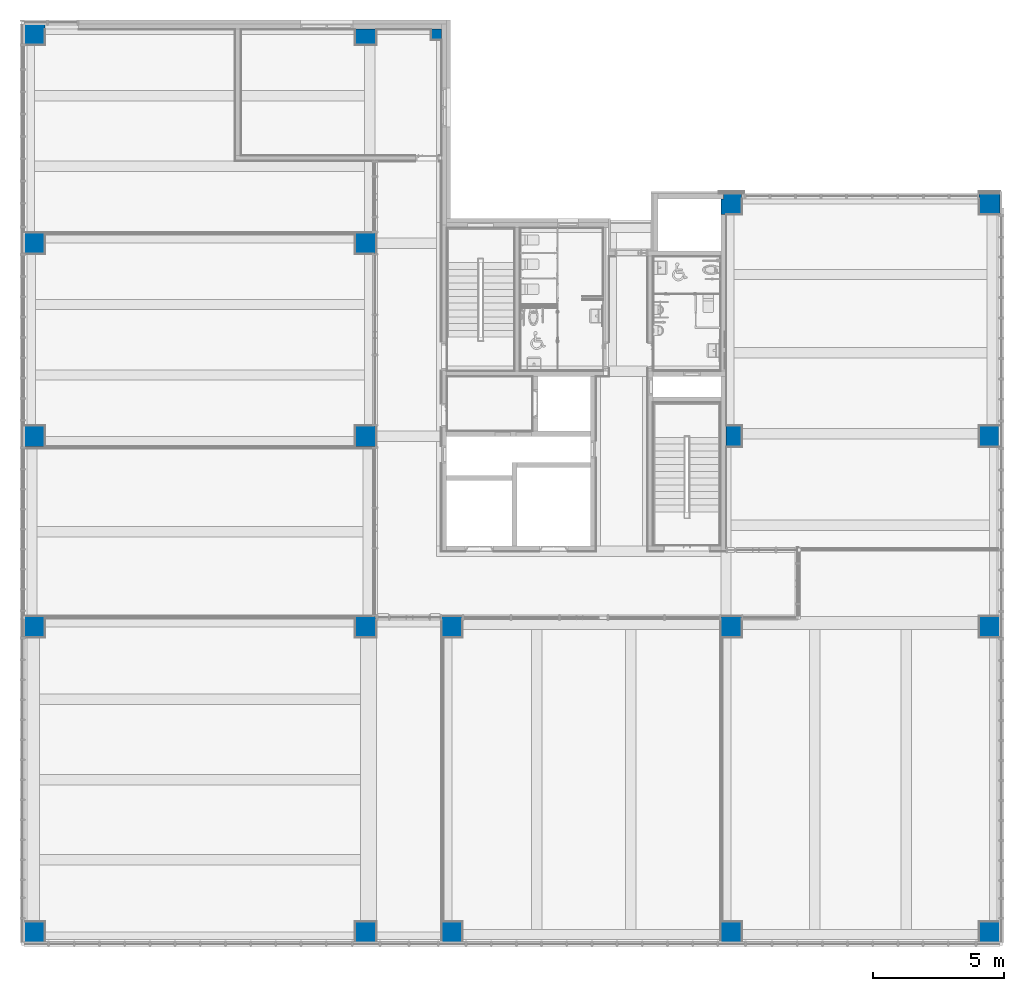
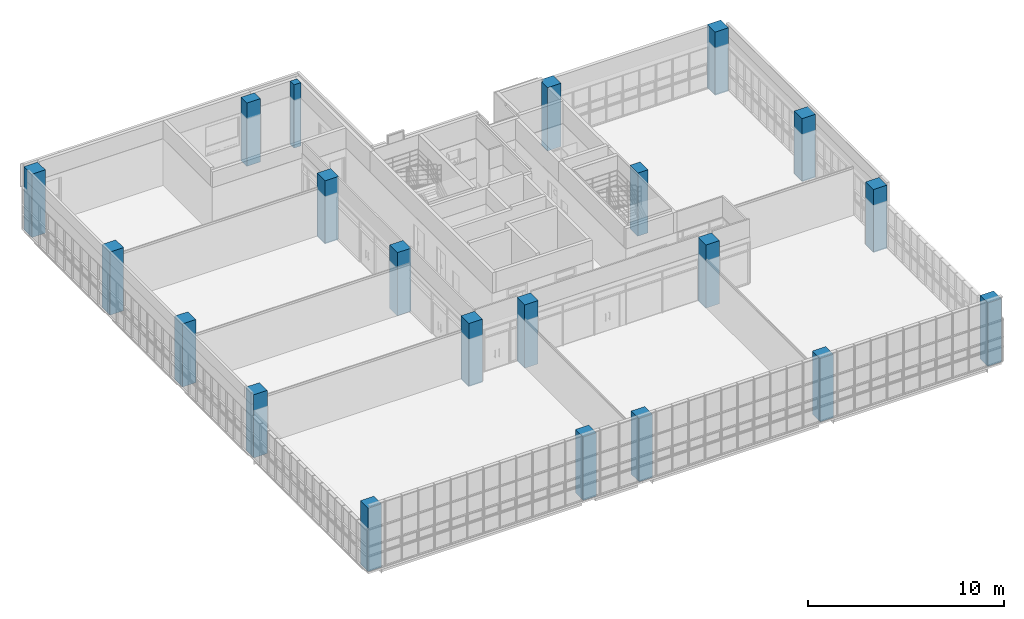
# One storey, part 1 of 76: 21 columns.
"""IFC2X3 building model written with IfcOpenShell, lengths in millimetres."""

from ifc_helpers import new_model, entity, si_unit, converted_unit, derived_unit, direction, frame, frame_2d, origin, origin_2d_with_axis, place, context, subcontext, project, spatial, polyline, rectangle, outline, extrude, source, transform, mapped, material, type_object, type_shapes, element, save


model = new_model("IFC2X3")

# Units and contexts
model_context = context("Model", 3, precision=0.01, world=origin(), true_north=direction((6.123031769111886e-17, 1.0)))
body_context = subcontext(model_context, "Body", "Model", "MODEL_VIEW")
ifc_project = project(units=[si_unit("LENGTHUNIT", "METRE", prefix="MILLI"), si_unit("AREAUNIT", "SQUARE_METRE"), si_unit("VOLUMEUNIT", "CUBIC_METRE"), converted_unit("PLANEANGLEUNIT", "DEGREE", entity("IfcRatioMeasure", 0.017453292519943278), si_unit("PLANEANGLEUNIT", "RADIAN"), dimensions=[0, 0, 0, 0, 0, 0, 0]), si_unit("MASSUNIT", "GRAM", prefix="KILO"), derived_unit("MASSDENSITYUNIT", [(si_unit("MASSUNIT", "GRAM", prefix="KILO"), 1), (si_unit("LENGTHUNIT", "METRE"), -3)]), derived_unit("MOMENTOFINERTIAUNIT", [(si_unit("LENGTHUNIT", "METRE"), 4)]), si_unit("TIMEUNIT", "SECOND"), si_unit("FREQUENCYUNIT", "HERTZ"), si_unit("THERMODYNAMICTEMPERATUREUNIT", "DEGREE_CELSIUS"), derived_unit("THERMALTRANSMITTANCEUNIT", [(si_unit("MASSUNIT", "GRAM", prefix="KILO"), 1), (si_unit("THERMODYNAMICTEMPERATUREUNIT", "KELVIN"), -1), (si_unit("TIMEUNIT", "SECOND"), -3)]), derived_unit("VOLUMETRICFLOWRATEUNIT", [(si_unit("LENGTHUNIT", "METRE"), 3), (si_unit("TIMEUNIT", "SECOND"), -1)]), derived_unit("MASSFLOWRATEUNIT", [(si_unit("MASSUNIT", "GRAM", prefix="KILO"), 1), (si_unit("TIMEUNIT", "SECOND"), -1)]), derived_unit("ROTATIONALFREQUENCYUNIT", [(si_unit("TIMEUNIT", "SECOND"), -1)]), si_unit("ELECTRICCURRENTUNIT", "AMPERE"), si_unit("ELECTRICVOLTAGEUNIT", "VOLT"), si_unit("POWERUNIT", "WATT"), si_unit("FORCEUNIT", "NEWTON", prefix="KILO"), si_unit("ILLUMINANCEUNIT", "LUX"), si_unit("LUMINOUSFLUXUNIT", "LUMEN"), si_unit("LUMINOUSINTENSITYUNIT", "CANDELA"), derived_unit("USERDEFINED", [(si_unit("MASSUNIT", "GRAM", prefix="KILO"), -1), (si_unit("LENGTHUNIT", "METRE"), -2), (si_unit("TIMEUNIT", "SECOND"), 3), (si_unit("LUMINOUSFLUXUNIT", "LUMEN"), 1)]), derived_unit("SOUNDPOWERUNIT", [(si_unit("MASSUNIT", "GRAM", prefix="KILO"), 1), (si_unit("LENGTHUNIT", "METRE"), 2), (si_unit("TIMEUNIT", "SECOND"), -3)]), derived_unit("SOUNDPRESSUREUNIT", [(si_unit("MASSUNIT", "GRAM", prefix="KILO"), 1), (si_unit("LENGTHUNIT", "METRE"), -1), (si_unit("TIMEUNIT", "SECOND"), -2)]), derived_unit("LINEARVELOCITYUNIT", [(si_unit("LENGTHUNIT", "METRE"), 1), (si_unit("TIMEUNIT", "SECOND"), -1)]), si_unit("PRESSUREUNIT", "PASCAL"), derived_unit("USERDEFINED", [(si_unit("LENGTHUNIT", "METRE"), -2), (si_unit("MASSUNIT", "GRAM", prefix="KILO"), 1), (si_unit("TIMEUNIT", "SECOND"), -2)]), derived_unit("LINEARFORCEUNIT", [(si_unit("MASSUNIT", "GRAM", prefix="KILO"), 1), (si_unit("LENGTHUNIT", "METRE"), 1), (si_unit("TIMEUNIT", "SECOND"), -2), (si_unit("LENGTHUNIT", "METRE"), -1)]), derived_unit("PLANARFORCEUNIT", [(si_unit("MASSUNIT", "GRAM", prefix="KILO"), 1), (si_unit("LENGTHUNIT", "METRE"), 1), (si_unit("TIMEUNIT", "SECOND"), -2), (si_unit("LENGTHUNIT", "METRE"), -2)])], contexts=[model_context])

# Site, building, storey
site_placement = place(None, frame((-14167.972527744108, -657.2125860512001, 0.0)))
site = spatial("IfcSite", under=ifc_project, at=site_placement, Name="Default", CompositionType="ELEMENT")
building_placement = place(site_placement, origin())
building = spatial("IfcBuilding", under=site, at=building_placement, Name="Sample Building", CompositionType="ELEMENT")
storey_placement = place(building_placement, frame((0.0, 0.0, 9300.0)))
storey = spatial("IfcBuildingStorey", under=building, at=storey_placement, Name="지상 3층", CompositionType="ELEMENT", Elevation=9300.000000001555)

# Columns
ifc_material = material(Name="KBIMS-콘크리트")
column_type_1 = type_object("IfcColumnType", Name="CL111-철근콘크리트구조 기둥 (각형)1:CL111-철근콘크리트구조 기둥 (각형)_800x800_B2-7C3", PredefinedType="COLUMN", material=ifc_material)
shared_shape_1 = source(origin(), body_context, "Body", "SweptSolid", [
    extrude(rectangle(XDim=799.9999999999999, YDim=800.0, at=frame_2d((-5.684341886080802e-14, 0.0), x_axis=(1.0, 0.0))), frame((14467.955105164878, 957.2121951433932, 9300.0), z_axis=(0.0, 0.0, 1.0), x_axis=(0.0, -1.0, 0.0)), (0.0, 0.0, 1.0), 3950.0000000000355),
])
type_shapes(column_type_1, [shared_shape_1])
column_1_placement = place(storey_placement, frame((0.0, 0.0, -9300.0)))
element("IfcColumn", 1, at=column_1_placement, inside=storey, type_object=column_type_1, material=ifc_material, Name="CL111-철근콘크리트구조 기둥 (각형)1:CL111-철근콘크리트구조 기둥 (각형)_800x800_B2-7C3", ObjectType="CL111-철근콘크리트구조 기둥 (각형)1:CL111-철근콘크리트구조 기둥 (각형)_800x800_B2-7C3", context=body_context, shape_type="MappedRepresentation", body=[
    mapped(shared_shape_1, transform((0.0, 0.0, 0.0), scale=1.0)),
])
column_type_2 = type_object("IfcColumnType", Name="CL111-철근콘크리트구조 기둥 (각형)1:CL111-철근콘크리트구조 기둥 (각형)_800x800_2-7C2", PredefinedType="COLUMN", material=ifc_material)
shared_shape_2 = source(origin(), body_context, "Body", "SweptSolid", [
    extrude(rectangle(XDim=799.9999999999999, YDim=800.0, at=frame_2d((-5.684341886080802e-14, 0.0), x_axis=(1.0, 0.0))), frame((27167.955141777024, 957.2121951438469, 9300.0), z_axis=(0.0, 0.0, 1.0), x_axis=(0.0, -1.0, 0.0)), (0.0, 0.0, 1.0), 3950.0000000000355),
])
type_shapes(column_type_2, [shared_shape_2])
column_2_placement = place(storey_placement, frame((0.0, 0.0, -9300.0)))
element("IfcColumn", 2, at=column_2_placement, inside=storey, type_object=column_type_2, material=ifc_material, Name="CL111-철근콘크리트구조 기둥 (각형)1:CL111-철근콘크리트구조 기둥 (각형)_800x800_2-7C2", ObjectType="CL111-철근콘크리트구조 기둥 (각형)1:CL111-철근콘크리트구조 기둥 (각형)_800x800_2-7C2", context=body_context, shape_type="MappedRepresentation", body=[
    mapped(shared_shape_2, transform((0.0, 0.0, 0.0), scale=1.0)),
])
column_type_3 = type_object("IfcColumnType", Name="CL111-철근콘크리트구조 기둥 (각형)1:CL111-철근콘크리트구조 기둥 (각형)_800x800_2-7C2", PredefinedType="COLUMN", material=ifc_material)
shared_shape_3 = source(origin(), body_context, "Body", "SweptSolid", [
    extrude(rectangle(XDim=799.9999999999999, YDim=800.0, at=frame_2d((-5.684341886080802e-14, 0.0), x_axis=(1.0, 0.0))), frame((30467.95511434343, 957.2121951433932, 9300.0), z_axis=(0.0, 0.0, 1.0), x_axis=(0.0, -1.0, 0.0)), (0.0, 0.0, 1.0), 3950.0000000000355),
])
type_shapes(column_type_3, [shared_shape_3])
column_3_placement = place(storey_placement, frame((0.0, 0.0, -9300.0)))
element("IfcColumn", 3, at=column_3_placement, inside=storey, type_object=column_type_3, material=ifc_material, Name="CL111-철근콘크리트구조 기둥 (각형)1:CL111-철근콘크리트구조 기둥 (각형)_800x800_2-7C2", ObjectType="CL111-철근콘크리트구조 기둥 (각형)1:CL111-철근콘크리트구조 기둥 (각형)_800x800_2-7C2", context=body_context, shape_type="MappedRepresentation", body=[
    mapped(shared_shape_3, transform((0.0, 0.0, 0.0), scale=1.0)),
])
column_type_4 = type_object("IfcColumnType", Name="CL111-철근콘크리트구조 기둥 (각형)1:CL111-철근콘크리트구조 기둥 (각형)_800x800_2-7C2", PredefinedType="COLUMN", material=ifc_material)
shared_shape_4 = source(origin(), body_context, "Body", "SweptSolid", [
    extrude(rectangle(XDim=799.9999999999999, YDim=800.0, at=frame_2d((0.0, -4.348521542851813e-12), x_axis=(1.0, 0.0))), frame((41167.955141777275, 957.2121951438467, 9300.0), z_axis=(0.0, 0.0, 1.0), x_axis=(0.0, -1.0, 0.0)), (0.0, 0.0, 1.0), 3950.0000000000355),
])
type_shapes(column_type_4, [shared_shape_4])
column_4_placement = place(storey_placement, frame((0.0, 0.0, -9300.0)))
element("IfcColumn", 4, at=column_4_placement, inside=storey, type_object=column_type_4, material=ifc_material, Name="CL111-철근콘크리트구조 기둥 (각형)1:CL111-철근콘크리트구조 기둥 (각형)_800x800_2-7C2", ObjectType="CL111-철근콘크리트구조 기둥 (각형)1:CL111-철근콘크리트구조 기둥 (각형)_800x800_2-7C2", context=body_context, shape_type="MappedRepresentation", body=[
    mapped(shared_shape_4, transform((0.0, 0.0, 0.0), scale=1.0)),
])
column_type_5 = type_object("IfcColumnType", Name="CL111-철근콘크리트구조 기둥 (각형)1:CL111-철근콘크리트구조 기둥 (각형)_800x800_B2-7C3", PredefinedType="COLUMN", material=ifc_material)
shared_shape_5 = source(origin(), body_context, "Body", "SweptSolid", [
    extrude(rectangle(XDim=799.9999999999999, YDim=800.0, at=frame_2d((0.0, -4.348521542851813e-12), x_axis=(1.0, 0.0))), frame((51067.96383810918, 957.2126170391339, 9300.0), z_axis=(0.0, 0.0, 1.0), x_axis=(0.0, -1.0, 0.0)), (0.0, 0.0, 1.0), 3950.0000000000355),
])
type_shapes(column_type_5, [shared_shape_5])
column_5_placement = place(storey_placement, frame((0.0, 0.0, -9300.0)))
element("IfcColumn", 5, at=column_5_placement, inside=storey, type_object=column_type_5, material=ifc_material, Name="CL111-철근콘크리트구조 기둥 (각형)1:CL111-철근콘크리트구조 기둥 (각형)_800x800_B2-7C3", ObjectType="CL111-철근콘크리트구조 기둥 (각형)1:CL111-철근콘크리트구조 기둥 (각형)_800x800_B2-7C3", context=body_context, shape_type="MappedRepresentation", body=[
    mapped(shared_shape_5, transform((0.0, 0.0, 0.0), scale=1.0)),
])
column_type_6 = type_object("IfcColumnType", Name="CL111-철근콘크리트구조 기둥 (각형)1:CL111-철근콘크리트구조 기둥 (각형)_800x800_2-7C2", PredefinedType="COLUMN", material=ifc_material)
shared_shape_6 = source(origin(), body_context, "Body", "SweptSolid", [
    extrude(rectangle(XDim=800.0000000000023, YDim=800.0000000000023, at=origin_2d_with_axis()), frame((14467.955086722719, 12657.21261703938, 9300.0), z_axis=(0.0, 0.0, 1.0), x_axis=(0.0, -1.0, 0.0)), (0.0, 0.0, 1.0), 3950.0000000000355),
])
type_shapes(column_type_6, [shared_shape_6])
column_6_placement = place(storey_placement, frame((0.0, 0.0, -9300.0)))
element("IfcColumn", 6, at=column_6_placement, inside=storey, type_object=column_type_6, material=ifc_material, Name="CL111-철근콘크리트구조 기둥 (각형)1:CL111-철근콘크리트구조 기둥 (각형)_800x800_2-7C2", ObjectType="CL111-철근콘크리트구조 기둥 (각형)1:CL111-철근콘크리트구조 기둥 (각형)_800x800_2-7C2", context=body_context, shape_type="MappedRepresentation", body=[
    mapped(shared_shape_6, transform((0.0, 0.0, 0.0), scale=1.0)),
])
column_type_7 = type_object("IfcColumnType", Name="CL111-철근콘크리트구조 기둥 (각형)1:CL111-철근콘크리트구조 기둥 (각형)_800x800_2-7C2", PredefinedType="COLUMN", material=ifc_material)
shared_shape_7 = source(origin(), body_context, "Body", "SweptSolid", [
    extrude(rectangle(XDim=800.0, YDim=800.0, at=origin_2d_with_axis()), frame((27167.955141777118, 12657.21261703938, 9300.0), z_axis=(0.0, 0.0, 1.0), x_axis=(0.0, -1.0, 0.0)), (0.0, 0.0, 1.0), 3950.0000000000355),
])
type_shapes(column_type_7, [shared_shape_7])
column_7_placement = place(storey_placement, frame((0.0, 0.0, -9300.0)))
element("IfcColumn", 7, at=column_7_placement, inside=storey, type_object=column_type_7, material=ifc_material, Name="CL111-철근콘크리트구조 기둥 (각형)1:CL111-철근콘크리트구조 기둥 (각형)_800x800_2-7C2", ObjectType="CL111-철근콘크리트구조 기둥 (각형)1:CL111-철근콘크리트구조 기둥 (각형)_800x800_2-7C2", context=body_context, shape_type="MappedRepresentation", body=[
    mapped(shared_shape_7, transform((0.0, 0.0, 0.0), scale=1.0)),
])
column_type_8 = type_object("IfcColumnType", Name="CL111-철근콘크리트구조 기둥 (각형)1:CL111-철근콘크리트구조 기둥 (각형)_800x800_2-7C2", PredefinedType="COLUMN", material=ifc_material)
shared_shape_8 = source(origin(), body_context, "Body", "SweptSolid", [
    extrude(rectangle(XDim=800.0, YDim=800.0, at=origin_2d_with_axis()), frame((30467.95511434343, 12657.21261703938, 9300.0), z_axis=(0.0, 0.0, 1.0), x_axis=(0.0, -1.0, 0.0)), (0.0, 0.0, 1.0), 3950.0000000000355),
])
type_shapes(column_type_8, [shared_shape_8])
column_8_placement = place(storey_placement, frame((0.0, 0.0, -9300.0)))
element("IfcColumn", 8, at=column_8_placement, inside=storey, type_object=column_type_8, material=ifc_material, Name="CL111-철근콘크리트구조 기둥 (각형)1:CL111-철근콘크리트구조 기둥 (각형)_800x800_2-7C2", ObjectType="CL111-철근콘크리트구조 기둥 (각형)1:CL111-철근콘크리트구조 기둥 (각형)_800x800_2-7C2", context=body_context, shape_type="MappedRepresentation", body=[
    mapped(shared_shape_8, transform((0.0, 0.0, 0.0), scale=1.0)),
])
column_type_9 = type_object("IfcColumnType", Name="CL111-철근콘크리트구조 기둥 (각형)1:CL111-철근콘크리트구조 기둥 (각형)_800x800_2-7C2", PredefinedType="COLUMN", material=ifc_material)
shared_shape_9 = source(origin(), body_context, "Body", "SweptSolid", [
    extrude(rectangle(XDim=800.0, YDim=800.0, at=frame_2d((0.0, -4.348521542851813e-12), x_axis=(1.0, 0.0))), frame((41167.955141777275, 12657.21261703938, 9300.0), z_axis=(0.0, 0.0, 1.0), x_axis=(0.0, -1.0, 0.0)), (0.0, 0.0, 1.0), 3950.0000000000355),
])
type_shapes(column_type_9, [shared_shape_9])
column_9_placement = place(storey_placement, frame((0.0, 0.0, -9300.0)))
element("IfcColumn", 9, at=column_9_placement, inside=storey, type_object=column_type_9, material=ifc_material, Name="CL111-철근콘크리트구조 기둥 (각형)1:CL111-철근콘크리트구조 기둥 (각형)_800x800_2-7C2", ObjectType="CL111-철근콘크리트구조 기둥 (각형)1:CL111-철근콘크리트구조 기둥 (각형)_800x800_2-7C2", context=body_context, shape_type="MappedRepresentation", body=[
    mapped(shared_shape_9, transform((0.0, 0.0, 0.0), scale=1.0)),
])
column_type_10 = type_object("IfcColumnType", Name="CL111-철근콘크리트구조 기둥 (각형)1:CL111-철근콘크리트구조 기둥 (각형)_800x800_2-7C2", PredefinedType="COLUMN", material=ifc_material)
shared_shape_10 = source(origin(), body_context, "Body", "SweptSolid", [
    extrude(rectangle(XDim=800.0000000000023, YDim=800.0, at=frame_2d((0.0, -4.348521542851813e-12), x_axis=(1.0, 0.0))), frame((51067.96383810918, 12657.213038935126, 9300.0), z_axis=(0.0, 0.0, 1.0), x_axis=(0.0, -1.0, 0.0)), (0.0, 0.0, 1.0), 3950.0000000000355),
])
type_shapes(column_type_10, [shared_shape_10])
column_10_placement = place(storey_placement, frame((0.0, 0.0, -9300.0)))
element("IfcColumn", 10, at=column_10_placement, inside=storey, type_object=column_type_10, material=ifc_material, Name="CL111-철근콘크리트구조 기둥 (각형)1:CL111-철근콘크리트구조 기둥 (각형)_800x800_2-7C2", ObjectType="CL111-철근콘크리트구조 기둥 (각형)1:CL111-철근콘크리트구조 기둥 (각형)_800x800_2-7C2", context=body_context, shape_type="MappedRepresentation", body=[
    mapped(shared_shape_10, transform((0.0, 0.0, 0.0), scale=1.0)),
])
column_type_11 = type_object("IfcColumnType", Name="CL111-철근콘크리트구조 기둥 (각형)1:CL111-철근콘크리트구조 기둥 (각형)_800x800_2-7C2", PredefinedType="COLUMN", material=ifc_material)
shared_shape_11 = source(origin(), body_context, "Body", "SweptSolid", [
    extrude(rectangle(XDim=800.0, YDim=800.0000000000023, at=origin_2d_with_axis()), frame((14467.955086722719, 19957.21261703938, 9300.0), z_axis=(0.0, 0.0, 1.0), x_axis=(0.0, -1.0, 0.0)), (0.0, 0.0, 1.0), 3950.0000000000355),
])
type_shapes(column_type_11, [shared_shape_11])
column_11_placement = place(storey_placement, frame((0.0, 0.0, -9300.0)))
element("IfcColumn", 11, at=column_11_placement, inside=storey, type_object=column_type_11, material=ifc_material, Name="CL111-철근콘크리트구조 기둥 (각형)1:CL111-철근콘크리트구조 기둥 (각형)_800x800_2-7C2", ObjectType="CL111-철근콘크리트구조 기둥 (각형)1:CL111-철근콘크리트구조 기둥 (각형)_800x800_2-7C2", context=body_context, shape_type="MappedRepresentation", body=[
    mapped(shared_shape_11, transform((0.0, 0.0, 0.0), scale=1.0)),
])
column_type_12 = type_object("IfcColumnType", Name="CL111-철근콘크리트구조 기둥 (각형)1:CL111-철근콘크리트구조 기둥 (각형)_800x800_2-7C2", PredefinedType="COLUMN", material=ifc_material)
shared_shape_12 = source(origin(), body_context, "Body", "SweptSolid", [
    extrude(rectangle(XDim=800.0, YDim=800.0, at=origin_2d_with_axis()), frame((27167.95514177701, 19957.212617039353, 9300.0), z_axis=(0.0, 0.0, 1.0), x_axis=(0.0, -1.0, 0.0)), (0.0, 0.0, 1.0), 3950.0000000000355),
])
type_shapes(column_type_12, [shared_shape_12])
column_12_placement = place(storey_placement, frame((0.0, 0.0, -9300.0)))
element("IfcColumn", 12, at=column_12_placement, inside=storey, type_object=column_type_12, material=ifc_material, Name="CL111-철근콘크리트구조 기둥 (각형)1:CL111-철근콘크리트구조 기둥 (각형)_800x800_2-7C2", ObjectType="CL111-철근콘크리트구조 기둥 (각형)1:CL111-철근콘크리트구조 기둥 (각형)_800x800_2-7C2", context=body_context, shape_type="MappedRepresentation", body=[
    mapped(shared_shape_12, transform((0.0, 0.0, 0.0), scale=1.0)),
])
column_type_13 = type_object("IfcColumnType", Name="CL111-철근콘크리트구조 기둥 (각형)1:CL111-철근콘크리트구조 기둥 (각형)_800x800_B2-4C1", PredefinedType="COLUMN", material=ifc_material)
shared_shape_13 = source(origin(), body_context, "Body", "SweptSolid", [
    extrude(rectangle(XDim=800.0, YDim=599.9913238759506, at=origin_2d_with_axis()), frame((41267.959460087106, 19957.21261703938, 9300.0), z_axis=(0.0, 0.0, 1.0), x_axis=(0.0, -1.0, 0.0)), (0.0, 0.0, 1.0), 3950.0000000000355),
])
type_shapes(column_type_13, [shared_shape_13])
column_13_placement = place(storey_placement, frame((0.0, 0.0, -9300.0)))
element("IfcColumn", 13, at=column_13_placement, inside=storey, type_object=column_type_13, material=ifc_material, Name="CL111-철근콘크리트구조 기둥 (각형)1:CL111-철근콘크리트구조 기둥 (각형)_800x800_B2-4C1", ObjectType="CL111-철근콘크리트구조 기둥 (각형)1:CL111-철근콘크리트구조 기둥 (각형)_800x800_B2-4C1", context=body_context, shape_type="MappedRepresentation", body=[
    mapped(shared_shape_13, transform((0.0, 0.0, 0.0), scale=1.0)),
])
column_type_14 = type_object("IfcColumnType", Name="CL111-철근콘크리트구조 기둥 (각형)1:CL111-철근콘크리트구조 기둥 (각형)_800x800_B2-4C1", PredefinedType="COLUMN", material=ifc_material)
shared_shape_14 = source(origin(), body_context, "Body", "SweptSolid", [
    extrude(rectangle(XDim=800.0, YDim=800.0, at=frame_2d((0.0, -4.348521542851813e-12), x_axis=(1.0, 0.0))), frame((51067.963865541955, 19957.21261703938, 9300.0), z_axis=(0.0, 0.0, 1.0), x_axis=(0.0, -1.0, 0.0)), (0.0, 0.0, 1.0), 3950.0000000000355),
])
type_shapes(column_type_14, [shared_shape_14])
column_14_placement = place(storey_placement, frame((0.0, 0.0, -9300.0)))
element("IfcColumn", 14, at=column_14_placement, inside=storey, type_object=column_type_14, material=ifc_material, Name="CL111-철근콘크리트구조 기둥 (각형)1:CL111-철근콘크리트구조 기둥 (각형)_800x800_B2-4C1", ObjectType="CL111-철근콘크리트구조 기둥 (각형)1:CL111-철근콘크리트구조 기둥 (각형)_800x800_B2-4C1", context=body_context, shape_type="MappedRepresentation", body=[
    mapped(shared_shape_14, transform((0.0, 0.0, 0.0), scale=1.0)),
])
column_type_15 = type_object("IfcColumnType", Name="CL111-철근콘크리트구조 기둥 (각형)1:CL111-철근콘크리트구조 기둥 (각형)_800x800_2-7C2", PredefinedType="COLUMN", material=ifc_material)
shared_shape_15 = source(origin(), body_context, "Body", "SweptSolid", [
    extrude(rectangle(XDim=800.0, YDim=800.0000000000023, at=origin_2d_with_axis()), frame((14467.955086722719, 27357.212617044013, 9300.0), z_axis=(0.0, 0.0, 1.0), x_axis=(0.0, -1.0, 0.0)), (0.0, 0.0, 1.0), 3950.0000000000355),
])
type_shapes(column_type_15, [shared_shape_15])
column_15_placement = place(storey_placement, frame((0.0, 0.0, -9300.0)))
element("IfcColumn", 15, at=column_15_placement, inside=storey, type_object=column_type_15, material=ifc_material, Name="CL111-철근콘크리트구조 기둥 (각형)1:CL111-철근콘크리트구조 기둥 (각형)_800x800_2-7C2", ObjectType="CL111-철근콘크리트구조 기둥 (각형)1:CL111-철근콘크리트구조 기둥 (각형)_800x800_2-7C2", context=body_context, shape_type="MappedRepresentation", body=[
    mapped(shared_shape_15, transform((0.0, 0.0, 0.0), scale=1.0)),
])
column_type_16 = type_object("IfcColumnType", Name="CL111-철근콘크리트구조 기둥 (각형)1:CL111-철근콘크리트구조 기둥 (각형)_800x800_2-7C2", PredefinedType="COLUMN", material=ifc_material)
shared_shape_16 = source(origin(), body_context, "Body", "SweptSolid", [
    extrude(rectangle(XDim=800.0, YDim=800.0, at=origin_2d_with_axis()), frame((27167.955141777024, 27357.212617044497, 9300.0), z_axis=(0.0, 0.0, 1.0), x_axis=(0.0, -1.0, 0.0)), (0.0, 0.0, 1.0), 3950.0000000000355),
])
type_shapes(column_type_16, [shared_shape_16])
column_16_placement = place(storey_placement, frame((0.0, 0.0, -9300.0)))
element("IfcColumn", 16, at=column_16_placement, inside=storey, type_object=column_type_16, material=ifc_material, Name="CL111-철근콘크리트구조 기둥 (각형)1:CL111-철근콘크리트구조 기둥 (각형)_800x800_2-7C2", ObjectType="CL111-철근콘크리트구조 기둥 (각형)1:CL111-철근콘크리트구조 기둥 (각형)_800x800_2-7C2", context=body_context, shape_type="MappedRepresentation", body=[
    mapped(shared_shape_16, transform((0.0, 0.0, 0.0), scale=1.0)),
])
column_type_17 = type_object("IfcColumnType", Name="CL111-철근콘크리트구조 기둥 (각형)1:CL111-철근콘크리트구조 기둥 (각형)_800x800_B2-4C1", PredefinedType="COLUMN", material=ifc_material)
shared_shape_17 = source(origin(), body_context, "Body", "SweptSolid", [
    extrude(outline(polyline([(-133.33312729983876, -300.0028854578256), (466.6665636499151, -300.0028854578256), (466.6665636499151, 499.9971145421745), (-333.333436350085, 499.9971145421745), (-333.333436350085, -199.99422908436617), (-133.33312729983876, -199.99422908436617), (-133.33312729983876, -300.0028854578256)])), frame((41067.9580272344, 28923.87918068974, 9300.0), z_axis=(0.0, 0.0, 1.0), x_axis=(0.0, -1.0, 0.0)), (0.0, 0.0, 1.0), 3950.0000000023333),
])
type_shapes(column_type_17, [shared_shape_17])
column_17_placement = place(storey_placement, frame((0.0, 0.0, -9300.0)))
element("IfcColumn", 17, at=column_17_placement, inside=storey, type_object=column_type_17, material=ifc_material, Name="CL111-철근콘크리트구조 기둥 (각형)1:CL111-철근콘크리트구조 기둥 (각형)_800x800_B2-4C1", ObjectType="CL111-철근콘크리트구조 기둥 (각형)1:CL111-철근콘크리트구조 기둥 (각형)_800x800_B2-4C1", context=body_context, shape_type="MappedRepresentation", body=[
    mapped(shared_shape_17, transform((0.0, 0.0, 0.0), scale=1.0)),
])
column_type_18 = type_object("IfcColumnType", Name="CL111-철근콘크리트구조 기둥 (각형)1:CL111-철근콘크리트구조 기둥 (각형)_800x800_B2-4C1", PredefinedType="COLUMN", material=ifc_material)
shared_shape_18 = source(origin(), body_context, "Body", "SweptSolid", [
    extrude(rectangle(XDim=800.0, YDim=800.0, at=frame_2d((0.0, -4.348521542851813e-12), x_axis=(1.0, 0.0))), frame((51067.963865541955, 28857.212704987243, 9300.0), z_axis=(0.0, 0.0, 1.0), x_axis=(0.0, -1.0, 0.0)), (0.0, 0.0, 1.0), 3950.0000000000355),
])
type_shapes(column_type_18, [shared_shape_18])
column_18_placement = place(storey_placement, frame((0.0, 0.0, -9300.0)))
element("IfcColumn", 18, at=column_18_placement, inside=storey, type_object=column_type_18, material=ifc_material, Name="CL111-철근콘크리트구조 기둥 (각형)1:CL111-철근콘크리트구조 기둥 (각형)_800x800_B2-4C1", ObjectType="CL111-철근콘크리트구조 기둥 (각형)1:CL111-철근콘크리트구조 기둥 (각형)_800x800_B2-4C1", context=body_context, shape_type="MappedRepresentation", body=[
    mapped(shared_shape_18, transform((0.0, 0.0, 0.0), scale=1.0)),
])
column_type_19 = type_object("IfcColumnType", Name="CL111-철근콘크리트구조 기둥 (각형)1:CL111-철근콘크리트구조 기둥 (각형)_800x800_B2-7C3", PredefinedType="COLUMN", material=ifc_material)
shared_shape_19 = source(origin(), body_context, "Body", "SweptSolid", [
    extrude(rectangle(XDim=800.0, YDim=800.0, at=origin_2d_with_axis()), frame((14467.955105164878, 35357.21258960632, 9300.0), z_axis=(0.0, 0.0, 1.0), x_axis=(0.0, -1.0, 0.0)), (0.0, 0.0, 1.0), 3950.0000000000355),
])
type_shapes(column_type_19, [shared_shape_19])
column_19_placement = place(storey_placement, frame((0.0, 0.0, -9300.0)))
element("IfcColumn", 19, at=column_19_placement, inside=storey, type_object=column_type_19, material=ifc_material, Name="CL111-철근콘크리트구조 기둥 (각형)1:CL111-철근콘크리트구조 기둥 (각형)_800x800_B2-7C3", ObjectType="CL111-철근콘크리트구조 기둥 (각형)1:CL111-철근콘크리트구조 기둥 (각형)_800x800_B2-7C3", context=body_context, shape_type="MappedRepresentation", body=[
    mapped(shared_shape_19, transform((0.0, 0.0, 0.0), scale=1.0)),
])
column_type_20 = type_object("IfcColumnType", Name="CL111-철근콘크리트구조 기둥 (각형)1:CL111-철근콘크리트구조 기둥 (각형)_800x800_2-7C2", PredefinedType="COLUMN", material=ifc_material)
shared_shape_20 = source(origin(), body_context, "Body", "SweptSolid", [
    extrude(rectangle(XDim=599.9997055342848, YDim=800.0, at=frame_2d((2.1600499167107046e-12, 0.0), x_axis=(1.0, 0.0))), frame((27167.955141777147, 35257.21244237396, 9300.0), z_axis=(0.0, 0.0, 1.0), x_axis=(0.0, -1.0, 0.0)), (0.0, 0.0, 1.0), 3950.0000000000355),
])
type_shapes(column_type_20, [shared_shape_20])
column_20_placement = place(storey_placement, frame((0.0, 0.0, -9300.0)))
element("IfcColumn", 20, at=column_20_placement, inside=storey, type_object=column_type_20, material=ifc_material, Name="CL111-철근콘크리트구조 기둥 (각형)1:CL111-철근콘크리트구조 기둥 (각형)_800x800_2-7C2", ObjectType="CL111-철근콘크리트구조 기둥 (각형)1:CL111-철근콘크리트구조 기둥 (각형)_800x800_2-7C2", context=body_context, shape_type="MappedRepresentation", body=[
    mapped(shared_shape_20, transform((0.0, 0.0, 0.0), scale=1.0)),
])
column_type_21 = type_object("IfcColumnType", Name="CL111-철근콘크리트구조 기둥 (각형)1:CL111-철근콘크리트구조 기둥 (각형)_600x600_B2-10C4", PredefinedType="COLUMN", material=ifc_material)
shared_shape_21 = source(origin(), body_context, "Body", "SweptSolid", [
    extrude(rectangle(XDim=399.9996781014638, YDim=400.01734935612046, at=frame_2d((-2.1600499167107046e-12, -2.1600499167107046e-12), x_axis=(1.0, 0.0))), frame((29867.955086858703, 35357.212456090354, 9300.0), z_axis=(0.0, 0.0, 1.0), x_axis=(0.0, -1.0, 0.0)), (0.0, 0.0, 1.0), 3950.0000000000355),
])
type_shapes(column_type_21, [shared_shape_21])
column_21_placement = place(storey_placement, frame((0.0, 0.0, -9300.0)))
element("IfcColumn", 21, at=column_21_placement, inside=storey, type_object=column_type_21, material=ifc_material, Name="CL111-철근콘크리트구조 기둥 (각형)1:CL111-철근콘크리트구조 기둥 (각형)_600x600_B2-10C4", ObjectType="CL111-철근콘크리트구조 기둥 (각형)1:CL111-철근콘크리트구조 기둥 (각형)_600x600_B2-10C4", context=body_context, shape_type="MappedRepresentation", body=[
    mapped(shared_shape_21, transform((0.0, 0.0, 0.0), scale=1.0)),
])

save(model, "model.ifc")
